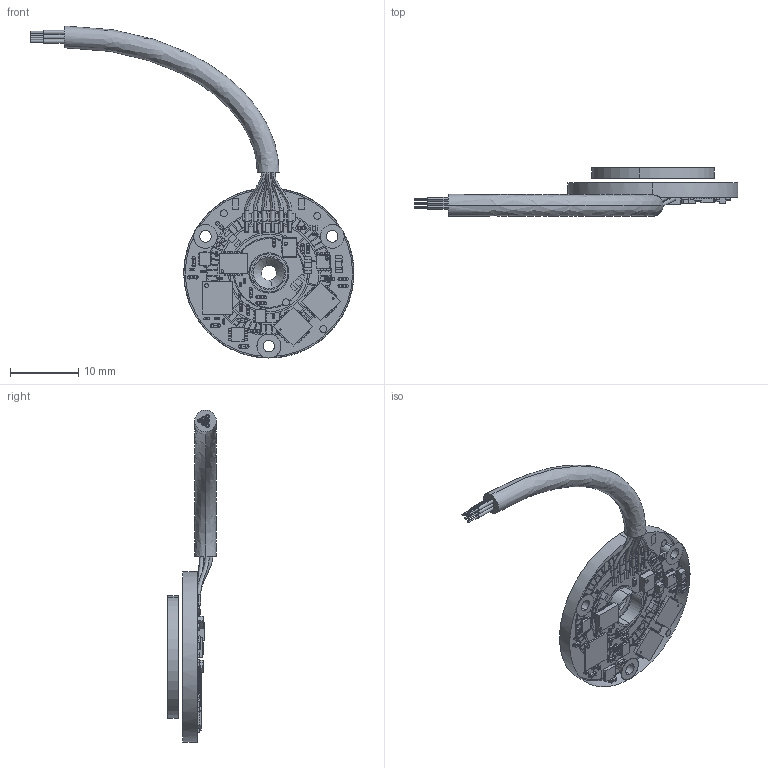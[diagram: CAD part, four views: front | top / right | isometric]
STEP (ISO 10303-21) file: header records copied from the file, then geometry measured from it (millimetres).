
FILE_DESCRIPTION (( 'STEP AP214' ), '1' );
FILE_NAME ('VLP-25 16-3 Endshaft rotor.STEP', '2025-03-23T13:37:20', ( '' ), ( '' ), 'SwSTEP 2.0', 'SolidWorks 2022', '' );
FILE_SCHEMA (( 'AUTOMOTIVE_DESIGN' ));
Length unit declared in the file: millimetre
Products named in the file (6): VLP-25 Rotor_PB-00556; VLP-25 Tranceiver_PB-00557; EA-00557_VLP-25; VLP-25 cable_Flying leads; PB-00557-Components_VLP without copper; VLP-25 16-3 Endshaft rotor
Assembly tree (5 placements, depth 3):
  VLP-25 16-3 Endshaft rotor
    EA-00557_VLP-25
      VLP-25 Tranceiver_PB-00557
      PB-00557-Components_VLP without copper
    VLP-25 Rotor_PB-00556
    VLP-25 cable_Flying leads
Bounding box: 47.6 x 7.17 x 48.8 mm (x, y, z)
Volume: 1735.9 mm3; surface area: 2831.3 mm2
Topology: 15 solids, 325 shells, 6395 faces, 15773 edges, 10369 vertices
Faces by surface type: plane 3876, cylinder 1175, bspline 1114, sphere 224, torus 4, cone 2
Entity records: 315935 total; most frequent: CARTESIAN_POINT 99089, ORIENTED_EDGE 30682, DIRECTION 26233, EDGE_CURVE 15357, LINE 10615, VECTOR 10615, VERTEX_POINT 10177, AXIS2_PLACEMENT_3D 7809
